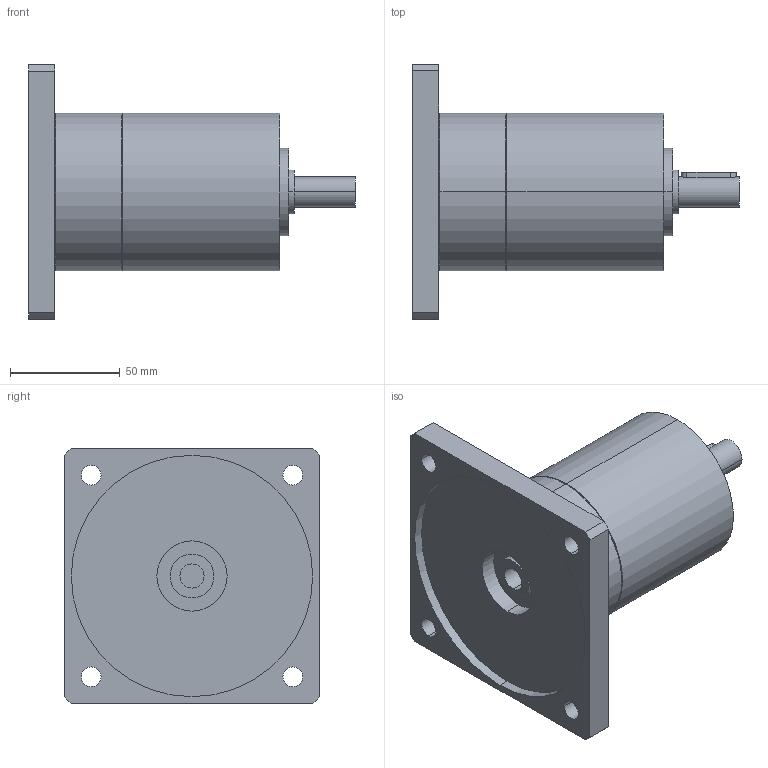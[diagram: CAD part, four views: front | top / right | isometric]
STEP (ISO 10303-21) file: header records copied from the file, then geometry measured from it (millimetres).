
FILE_DESCRIPTION(('CoCreate Modeling STEP Export'),'2;1');
FILE_NAME('GPT75_ig-9-12-16-20-25-28-35-40-50-70-100_14_B14T_11_P09.stp','2014-08-27T13:08:28',(''),(''),'CoCreate Modeling STEP processor for AP214 (Solid Model)','CoCreate Modeling 16.00C 25-Feb-2009 (C) Parametric Technology GmbH','');
FILE_SCHEMA(('AUTOMOTIVE_DESIGN { 1 0 10303 214 1 1 1 1 }'));
Length unit declared in the file: millimetre
Products named in the file (2): GPT75_ig-9-12-16-20-25-28-35-40-50-70-100_14_B14T_11_P09
Assembly tree (1 placements, depth 2):
  GPT75_ig-9-12-16-20-25-28-35-40-50-70-100_14_B14T_11_P09
    GPT75_ig-9-12-16-20-25-28-35-40-50-70-100_14_B14T_11_P09
Bounding box: 149 x 116 x 116 mm (x, y, z)
Volume: 534112.4 mm3; surface area: 63188.5 mm2
Topology: 1 solids, 1 shells, 69 faces, 166 edges, 113 vertices
Faces by surface type: cylinder 42, plane 23, cone 4
Entity records: 2161 total; most frequent: CARTESIAN_POINT 664, ORIENTED_EDGE 332, DIRECTION 262, EDGE_CURVE 166, VERTEX_POINT 113, AXIS2_PLACEMENT_3D 99, EDGE_LOOP 91, FACE_OUTER_BOUND 69
